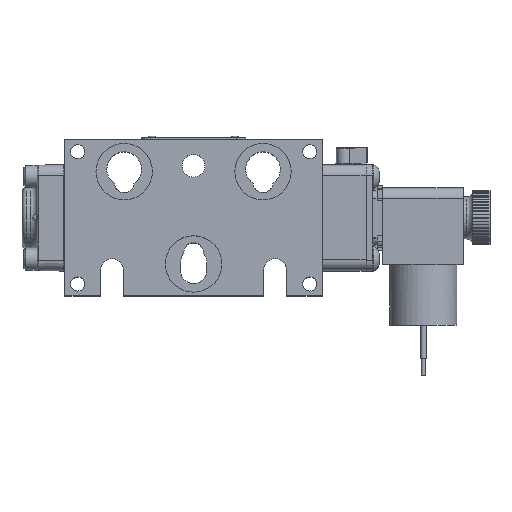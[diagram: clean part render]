
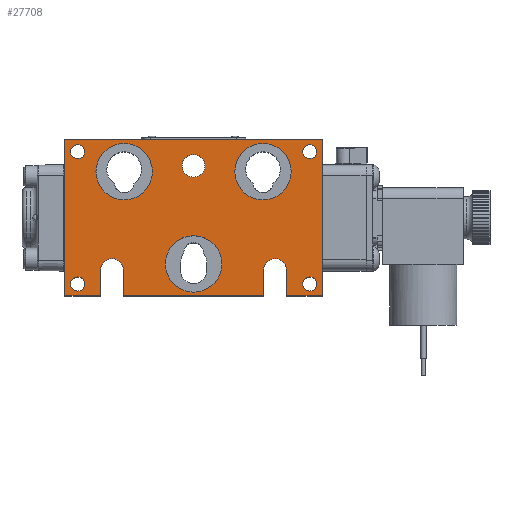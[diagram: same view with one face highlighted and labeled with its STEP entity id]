
A CAD part, top view. The second image highlights one B-rep face of the part: STEP entity #27708.
In plain terms, the highlighted planar face has unit normal (0, 0, 1).
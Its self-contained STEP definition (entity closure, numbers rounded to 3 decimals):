
#492=FACE_BOUND('',#5599,.T.);
#493=FACE_BOUND('',#5600,.T.);
#494=FACE_BOUND('',#5601,.T.);
#495=FACE_BOUND('',#5602,.T.);
#496=FACE_BOUND('',#5603,.T.);
#497=FACE_BOUND('',#5604,.T.);
#498=FACE_BOUND('',#5605,.T.);
#499=FACE_BOUND('',#5606,.T.);
#2183=CIRCLE('',#30478,0.417);
#2184=CIRCLE('',#30479,0.417);
#2219=CIRCLE('',#30532,1.031);
#2221=CIRCLE('',#30536,1.031);
#2222=CIRCLE('',#30538,1.031);
#2224=CIRCLE('',#30542,0.258);
#2225=CIRCLE('',#30543,0.258);
#2226=CIRCLE('',#30545,0.258);
#2227=CIRCLE('',#30546,0.258);
#2228=CIRCLE('',#30548,0.258);
#2229=CIRCLE('',#30549,0.258);
#2230=CIRCLE('',#30551,0.258);
#2231=CIRCLE('',#30552,0.258);
#2232=CIRCLE('',#30556,0.417);
#2233=CIRCLE('',#30561,0.417);
#3904=FACE_OUTER_BOUND('',#5598,.T.);
#5598=EDGE_LOOP('',(#23305,#23306,#23307,#23308,#23309,#23310,#23311,#23312,
#23313,#23314,#23315,#23316));
#5599=EDGE_LOOP('',(#23317,#23318));
#5600=EDGE_LOOP('',(#23319));
#5601=EDGE_LOOP('',(#23320));
#5602=EDGE_LOOP('',(#23321));
#5603=EDGE_LOOP('',(#23322,#23323));
#5604=EDGE_LOOP('',(#23324,#23325));
#5605=EDGE_LOOP('',(#23326,#23327));
#5606=EDGE_LOOP('',(#23328,#23329));
#6613=LINE('',#44822,#8505);
#6854=LINE('',#45625,#8746);
#7486=LINE('',#48505,#9378);
#7564=LINE('',#49239,#9456);
#7566=LINE('',#49243,#9458);
#7569=LINE('',#49251,#9461);
#7571=LINE('',#49255,#9463);
#7573=LINE('',#49259,#9465);
#7576=LINE('',#49267,#9468);
#7578=LINE('',#49270,#9470);
#8505=VECTOR('',#34168,1.);
#8746=VECTOR('',#34997,1.);
#9378=VECTOR('',#37361,1.);
#9456=VECTOR('',#37879,1.);
#9458=VECTOR('',#37883,1.);
#9461=VECTOR('',#37892,1.);
#9463=VECTOR('',#37896,1.);
#9465=VECTOR('',#37900,1.);
#9468=VECTOR('',#37909,1.);
#9470=VECTOR('',#37913,1.);
#11163=VERTEX_POINT('',#44820);
#11164=VERTEX_POINT('',#44821);
#11432=VERTEX_POINT('',#45624);
#12142=VERTEX_POINT('',#48504);
#12239=VERTEX_POINT('',#49072);
#12240=VERTEX_POINT('',#49073);
#12283=VERTEX_POINT('',#49196);
#12285=VERTEX_POINT('',#49203);
#12286=VERTEX_POINT('',#49207);
#12288=VERTEX_POINT('',#49214);
#12289=VERTEX_POINT('',#49215);
#12290=VERTEX_POINT('',#49220);
#12291=VERTEX_POINT('',#49221);
#12292=VERTEX_POINT('',#49226);
#12293=VERTEX_POINT('',#49227);
#12294=VERTEX_POINT('',#49232);
#12295=VERTEX_POINT('',#49233);
#12296=VERTEX_POINT('',#49238);
#12297=VERTEX_POINT('',#49242);
#12298=VERTEX_POINT('',#49246);
#12299=VERTEX_POINT('',#49250);
#12300=VERTEX_POINT('',#49254);
#12301=VERTEX_POINT('',#49258);
#12302=VERTEX_POINT('',#49262);
#12303=VERTEX_POINT('',#49266);
#14275=EDGE_CURVE('',#11163,#11164,#6613,.T.);
#14673=EDGE_CURVE('',#11432,#11163,#6854,.T.);
#15794=EDGE_CURVE('',#11164,#12142,#7486,.T.);
#15939=EDGE_CURVE('',#12239,#12240,#2183,.T.);
#15940=EDGE_CURVE('',#12240,#12239,#2184,.T.);
#16001=EDGE_CURVE('',#12283,#12283,#2219,.T.);
#16004=EDGE_CURVE('',#12285,#12285,#2221,.T.);
#16006=EDGE_CURVE('',#12286,#12286,#2222,.T.);
#16009=EDGE_CURVE('',#12288,#12289,#2224,.T.);
#16010=EDGE_CURVE('',#12289,#12288,#2225,.T.);
#16012=EDGE_CURVE('',#12290,#12291,#2226,.T.);
#16013=EDGE_CURVE('',#12291,#12290,#2227,.T.);
#16015=EDGE_CURVE('',#12292,#12293,#2228,.T.);
#16016=EDGE_CURVE('',#12293,#12292,#2229,.T.);
#16018=EDGE_CURVE('',#12294,#12295,#2230,.T.);
#16019=EDGE_CURVE('',#12295,#12294,#2231,.T.);
#16021=EDGE_CURVE('',#12142,#12296,#7564,.T.);
#16023=EDGE_CURVE('',#12296,#12297,#7566,.T.);
#16025=EDGE_CURVE('',#12297,#12298,#2232,.T.);
#16027=EDGE_CURVE('',#12298,#12299,#7569,.T.);
#16029=EDGE_CURVE('',#12299,#12300,#7571,.T.);
#16031=EDGE_CURVE('',#12300,#12301,#7573,.T.);
#16033=EDGE_CURVE('',#12301,#12302,#2233,.T.);
#16035=EDGE_CURVE('',#12302,#12303,#7576,.T.);
#16037=EDGE_CURVE('',#12303,#11432,#7578,.T.);
#23305=ORIENTED_EDGE('',*,*,#14275,.F.);
#23306=ORIENTED_EDGE('',*,*,#14673,.F.);
#23307=ORIENTED_EDGE('',*,*,#16037,.F.);
#23308=ORIENTED_EDGE('',*,*,#16035,.F.);
#23309=ORIENTED_EDGE('',*,*,#16033,.F.);
#23310=ORIENTED_EDGE('',*,*,#16031,.F.);
#23311=ORIENTED_EDGE('',*,*,#16029,.F.);
#23312=ORIENTED_EDGE('',*,*,#16027,.F.);
#23313=ORIENTED_EDGE('',*,*,#16025,.F.);
#23314=ORIENTED_EDGE('',*,*,#16023,.F.);
#23315=ORIENTED_EDGE('',*,*,#16021,.F.);
#23316=ORIENTED_EDGE('',*,*,#15794,.F.);
#23317=ORIENTED_EDGE('',*,*,#15939,.T.);
#23318=ORIENTED_EDGE('',*,*,#15940,.T.);
#23319=ORIENTED_EDGE('',*,*,#16001,.T.);
#23320=ORIENTED_EDGE('',*,*,#16004,.T.);
#23321=ORIENTED_EDGE('',*,*,#16006,.T.);
#23322=ORIENTED_EDGE('',*,*,#16009,.T.);
#23323=ORIENTED_EDGE('',*,*,#16010,.T.);
#23324=ORIENTED_EDGE('',*,*,#16012,.T.);
#23325=ORIENTED_EDGE('',*,*,#16013,.T.);
#23326=ORIENTED_EDGE('',*,*,#16015,.T.);
#23327=ORIENTED_EDGE('',*,*,#16016,.T.);
#23328=ORIENTED_EDGE('',*,*,#16018,.T.);
#23329=ORIENTED_EDGE('',*,*,#16019,.T.);
#24898=PLANE('',#30564);
#27708=ADVANCED_FACE('',(#3904,#492,#493,#494,#495,#496,#497,#498,#499),
#24898,.T.);
#30478=AXIS2_PLACEMENT_3D('',#49074,#37694,#37695);
#30479=AXIS2_PLACEMENT_3D('',#49075,#37696,#37697);
#30532=AXIS2_PLACEMENT_3D('',#49197,#37828,#37829);
#30536=AXIS2_PLACEMENT_3D('',#49204,#37837,#37838);
#30538=AXIS2_PLACEMENT_3D('',#49208,#37842,#37843);
#30542=AXIS2_PLACEMENT_3D('',#49216,#37851,#37852);
#30543=AXIS2_PLACEMENT_3D('',#49217,#37853,#37854);
#30545=AXIS2_PLACEMENT_3D('',#49222,#37858,#37859);
#30546=AXIS2_PLACEMENT_3D('',#49223,#37860,#37861);
#30548=AXIS2_PLACEMENT_3D('',#49228,#37865,#37866);
#30549=AXIS2_PLACEMENT_3D('',#49229,#37867,#37868);
#30551=AXIS2_PLACEMENT_3D('',#49234,#37872,#37873);
#30552=AXIS2_PLACEMENT_3D('',#49235,#37874,#37875);
#30556=AXIS2_PLACEMENT_3D('',#49247,#37887,#37888);
#30561=AXIS2_PLACEMENT_3D('',#49263,#37904,#37905);
#30564=AXIS2_PLACEMENT_3D('',#49271,#37914,#37915);
#34168=DIRECTION('',(1.,0.,0.));
#34997=DIRECTION('',(0.,1.,0.));
#37361=DIRECTION('',(0.,-1.,0.));
#37694=DIRECTION('center_axis',(0.,0.,-1.));
#37695=DIRECTION('ref_axis',(1.,0.,0.));
#37696=DIRECTION('center_axis',(0.,0.,-1.));
#37697=DIRECTION('ref_axis',(1.,0.,0.));
#37828=DIRECTION('center_axis',(0.,0.,-1.));
#37829=DIRECTION('ref_axis',(-1.,0.,0.));
#37837=DIRECTION('center_axis',(0.,0.,-1.));
#37838=DIRECTION('ref_axis',(-1.,0.,0.));
#37842=DIRECTION('center_axis',(0.,0.,-1.));
#37843=DIRECTION('ref_axis',(-1.,0.,0.));
#37851=DIRECTION('center_axis',(0.,0.,-1.));
#37852=DIRECTION('ref_axis',(1.,0.,0.));
#37853=DIRECTION('center_axis',(0.,0.,-1.));
#37854=DIRECTION('ref_axis',(1.,0.,0.));
#37858=DIRECTION('center_axis',(0.,0.,-1.));
#37859=DIRECTION('ref_axis',(1.,0.,0.));
#37860=DIRECTION('center_axis',(0.,0.,-1.));
#37861=DIRECTION('ref_axis',(1.,0.,0.));
#37865=DIRECTION('center_axis',(0.,0.,-1.));
#37866=DIRECTION('ref_axis',(1.,0.,0.));
#37867=DIRECTION('center_axis',(0.,0.,-1.));
#37868=DIRECTION('ref_axis',(1.,0.,0.));
#37872=DIRECTION('center_axis',(0.,0.,-1.));
#37873=DIRECTION('ref_axis',(1.,0.,0.));
#37874=DIRECTION('center_axis',(0.,0.,-1.));
#37875=DIRECTION('ref_axis',(1.,0.,0.));
#37879=DIRECTION('',(-1.,0.,0.));
#37883=DIRECTION('',(0.,1.,0.));
#37887=DIRECTION('center_axis',(0.,0.,1.));
#37888=DIRECTION('ref_axis',(1.,0.,0.));
#37892=DIRECTION('',(0.,-1.,0.));
#37896=DIRECTION('',(-1.,0.,0.));
#37900=DIRECTION('',(0.,1.,0.));
#37904=DIRECTION('center_axis',(0.,0.,1.));
#37905=DIRECTION('ref_axis',(1.,0.,0.));
#37909=DIRECTION('',(0.,-1.,0.));
#37913=DIRECTION('',(-1.,0.,0.));
#37914=DIRECTION('center_axis',(0.,0.,1.));
#37915=DIRECTION('ref_axis',(1.,0.,0.));
#44820=CARTESIAN_POINT('',(-4.712,2.858,1.666));
#44821=CARTESIAN_POINT('',(4.712,2.858,1.666));
#44822=CARTESIAN_POINT('',(-4.712,2.858,1.666));
#45624=CARTESIAN_POINT('',(-4.712,-2.858,1.666));
#45625=CARTESIAN_POINT('',(-4.712,-2.858,1.666));
#48504=CARTESIAN_POINT('',(4.712,-2.858,1.666));
#48505=CARTESIAN_POINT('',(4.712,2.858,1.666));
#49072=CARTESIAN_POINT('',(0.417,1.905,1.666));
#49073=CARTESIAN_POINT('',(-0.417,1.905,1.666));
#49074=CARTESIAN_POINT('Origin',(0.,1.905,1.666));
#49075=CARTESIAN_POINT('Origin',(0.,1.905,1.666));
#49196=CARTESIAN_POINT('',(3.571,1.689,1.666));
#49197=CARTESIAN_POINT('Origin',(2.54,1.689,1.666));
#49203=CARTESIAN_POINT('',(1.031,-1.689,1.666));
#49204=CARTESIAN_POINT('Origin',(0.,-1.689,1.666));
#49207=CARTESIAN_POINT('',(-1.509,1.689,1.666));
#49208=CARTESIAN_POINT('Origin',(-2.54,1.689,1.666));
#49214=CARTESIAN_POINT('',(4.505,-2.421,1.666));
#49215=CARTESIAN_POINT('',(3.989,-2.421,1.666));
#49216=CARTESIAN_POINT('Origin',(4.247,-2.421,1.666));
#49217=CARTESIAN_POINT('Origin',(4.247,-2.421,1.666));
#49220=CARTESIAN_POINT('',(-3.987,-2.421,1.666));
#49221=CARTESIAN_POINT('',(-4.502,-2.421,1.666));
#49222=CARTESIAN_POINT('Origin',(-4.244,-2.421,1.666));
#49223=CARTESIAN_POINT('Origin',(-4.244,-2.421,1.666));
#49226=CARTESIAN_POINT('',(4.505,2.421,1.666));
#49227=CARTESIAN_POINT('',(3.989,2.421,1.666));
#49228=CARTESIAN_POINT('Origin',(4.247,2.421,1.666));
#49229=CARTESIAN_POINT('Origin',(4.247,2.421,1.666));
#49232=CARTESIAN_POINT('',(-3.987,2.421,1.666));
#49233=CARTESIAN_POINT('',(-4.502,2.421,1.666));
#49234=CARTESIAN_POINT('Origin',(-4.244,2.421,1.666));
#49235=CARTESIAN_POINT('Origin',(-4.244,2.421,1.666));
#49238=CARTESIAN_POINT('',(3.401,-2.858,1.666));
#49239=CARTESIAN_POINT('',(4.712,-2.858,1.666));
#49242=CARTESIAN_POINT('',(3.401,-1.905,1.666));
#49243=CARTESIAN_POINT('',(3.401,-2.858,1.666));
#49246=CARTESIAN_POINT('',(2.568,-1.905,1.666));
#49247=CARTESIAN_POINT('Origin',(2.985,-1.905,1.666));
#49250=CARTESIAN_POINT('',(2.568,-2.858,1.666));
#49251=CARTESIAN_POINT('',(2.568,-1.905,1.666));
#49254=CARTESIAN_POINT('',(-2.568,-2.858,1.666));
#49255=CARTESIAN_POINT('',(2.568,-2.858,1.666));
#49258=CARTESIAN_POINT('',(-2.568,-1.905,1.666));
#49259=CARTESIAN_POINT('',(-2.568,-2.858,1.666));
#49262=CARTESIAN_POINT('',(-3.401,-1.905,1.666));
#49263=CARTESIAN_POINT('Origin',(-2.985,-1.905,1.666));
#49266=CARTESIAN_POINT('',(-3.401,-2.858,1.666));
#49267=CARTESIAN_POINT('',(-3.401,-1.905,1.666));
#49270=CARTESIAN_POINT('',(-3.401,-2.858,1.666));
#49271=CARTESIAN_POINT('Origin',(0.,-0.247,
1.666));
